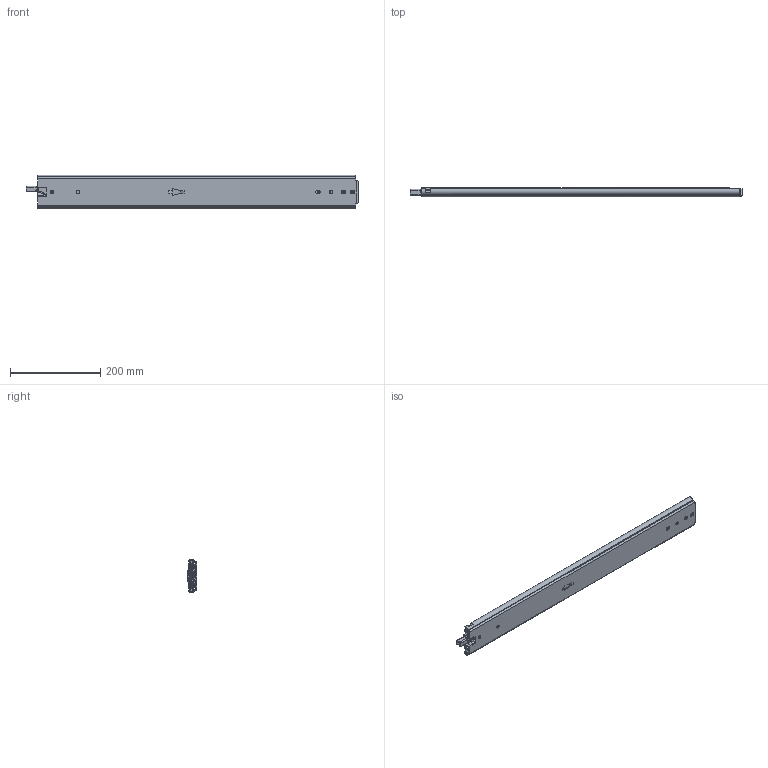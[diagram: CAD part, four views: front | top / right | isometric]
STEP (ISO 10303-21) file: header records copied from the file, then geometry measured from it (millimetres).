
FILE_DESCRIPTION((''),'2;1');
FILE_NAME('DCL2307619-711-CLOSE_ASM_ASM','2023-05-10T',('jishu015'),(''),'PRO/ENGINEER BY PARAMETRIC TECHNOLOGY CORPORATION, 2010280','PRO/ENGINEER BY PARAMETRIC TECHNOLOGY CORPORATION, 2010280','');
FILE_SCHEMA(('CONFIG_CONTROL_DESIGN'));
Length unit declared in the file: millimetre
Products named in the file (32): KP-76-04WAIKE-1816______2; 1076-WAIKEZIDANJIAO16______1; WAIK16______ASM_1_ASM; 1076XIAOZHUTIAO-22516______1; 16______1; 1076XIAOZHUTIAO-17516______ASM__ASM; KP-76-04ZHONGGUI1816______1; 76CHANGGUIZHONGGUIJIAO16______1; 3X6WODIN16______1; ZHONGGUIBAIKOU16______1; PJ-76-30_____1; PJ-76-03_____1; 76-XIAOZHUJIA-11_____1; GANGZHU-XIAO_____1; ZHUJIA-XIAO_____ASM_1_ASM; ZHONGGUI6______ASM_2_ASM; KP-76-04NEIGUI1816______2; PJ-76-31_____1; DAOGPIAN16______1; MANIFOLD_SOLID_BREP_53893; MANIFOLD_SOLID_BREP_54334; 1053-3SBANJ01_____2_ASM; JIAO-11_____2; 76XINSUOKOU_____2; PJ-338_____1; PJ-356_____1; PJ-357_____1; PJ-336_____1; M4X4_____1; NEIGUI16______ASM_2_ASM; DG-76-3S-28YOU_ASM_2_ASM; DCL2307619-711-CLOSE_ASM_ASM
Assembly tree (67 placements, depth 5):
  DCL2307619-711-CLOSE_ASM_ASM
    DG-76-3S-28YOU_ASM_2_ASM
      WAIK16______ASM_1_ASM
        KP-76-04WAIKE-1816______2
        1076-WAIKEZIDANJIAO16______1  x2
      1076XIAOZHUTIAO-17516______ASM__ASM  x2
        1076XIAOZHUTIAO-22516______1
        16______1
      ZHONGGUI6______ASM_2_ASM
        KP-76-04ZHONGGUI1816______1
        76CHANGGUIZHONGGUIJIAO16______1
        3X6WODIN16______1
        ZHONGGUIBAIKOU16______1
        PJ-76-30_____1
        PJ-76-03_____1
        ZHUJIA-XIAO_____ASM_1_ASM
          76-XIAOZHUJIA-11_____1
          GANGZHU-XIAO_____1  x24
      NEIGUI16______ASM_2_ASM
        KP-76-04NEIGUI1816______2
        PJ-76-31_____1
        DAOGPIAN16______1
        1053-3SBANJ01_____2_ASM
          MANIFOLD_SOLID_BREP_53893
          MANIFOLD_SOLID_BREP_54334
        JIAO-11_____2
        76XINSUOKOU_____2
        PJ-338_____1
        PJ-356_____1
        PJ-357_____1
        PJ-336_____1
        M4X4_____1
Bounding box: 737.12 x 20.6 x 75.29 mm (x, y, z)
Volume: 466857 mm3; surface area: 449428.8 mm2
Topology: 72 solids, 72 shells, 2008 faces, 6300 edges, 4115 vertices
Faces by surface type: plane 966, cylinder 710, sphere 175, bspline 89, cone 28, extrusion 24, torus 16
Entity records: 70398 total; most frequent: CARTESIAN_POINT 22027, ORIENTED_EDGE 10680, DIRECTION 9509, EDGE_CURVE 5340, VERTEX_POINT 3574, AXIS2_PLACEMENT_3D 3344, VECTOR 2821, LINE 2797
